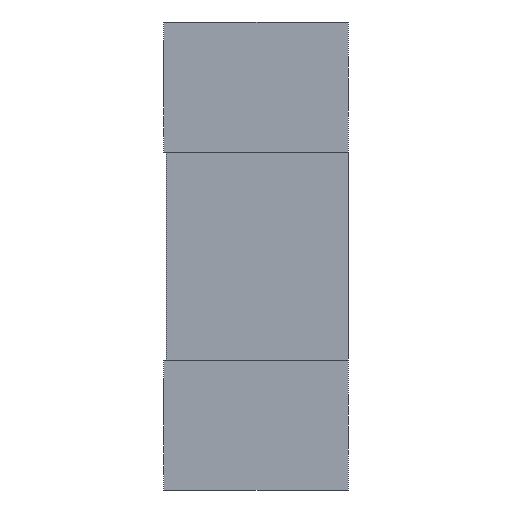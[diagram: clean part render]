
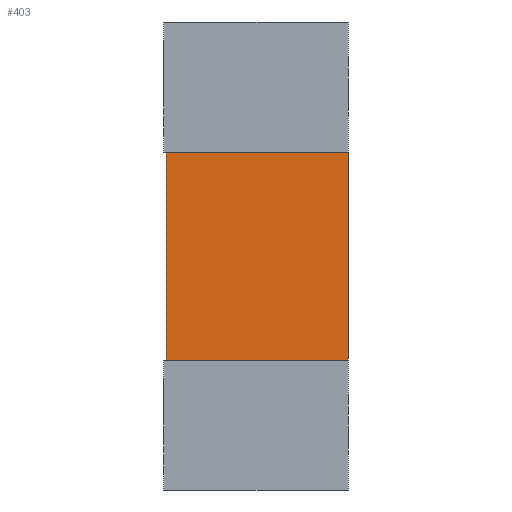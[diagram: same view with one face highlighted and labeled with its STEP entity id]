
A CAD part, left-side view. The second image highlights one B-rep face of the part: STEP entity #403.
In plain terms, the highlighted planar face has unit normal (-1, 0, 0).
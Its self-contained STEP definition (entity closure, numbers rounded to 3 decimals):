
#62=ORIENTED_EDGE('',*,*,#154,.T.);
#63=ORIENTED_EDGE('',*,*,#155,.F.);
#64=ORIENTED_EDGE('',*,*,#156,.F.);
#65=ORIENTED_EDGE('',*,*,#151,.T.);
#151=EDGE_CURVE('',#198,#197,#233,.T.);
#154=EDGE_CURVE('',#197,#200,#236,.T.);
#155=EDGE_CURVE('',#201,#200,#237,.T.);
#156=EDGE_CURVE('',#198,#201,#238,.T.);
#197=VERTEX_POINT('',#626);
#198=VERTEX_POINT('',#628);
#200=VERTEX_POINT('',#634);
#201=VERTEX_POINT('',#636);
#233=LINE('',#627,#263);
#236=LINE('',#633,#266);
#237=LINE('',#635,#267);
#238=LINE('',#637,#268);
#263=VECTOR('',#505,1000.);
#266=VECTOR('',#510,1000.);
#267=VECTOR('',#511,1000.);
#268=VECTOR('',#512,1000.);
#293=EDGE_LOOP('',(#62,#63,#64,#65));
#339=FACE_BOUND('',#293,.T.);
#385=PLANE('',#456);
#403=ADVANCED_FACE('',(#339),#385,.F.);
#456=AXIS2_PLACEMENT_3D('',#632,#508,#509);
#505=DIRECTION('',(0.,-1.,0.));
#508=DIRECTION('',(1.,0.,0.));
#509=DIRECTION('',(0.,0.,-1.));
#510=DIRECTION('',(0.,0.,1.));
#511=DIRECTION('',(0.,-1.,0.));
#512=DIRECTION('',(0.,0.,1.));
#626=CARTESIAN_POINT('',(0.,0.,-8.));
#627=CARTESIAN_POINT('',(0.,14.,-8.));
#628=CARTESIAN_POINT('',(0.,14.,-8.));
#632=CARTESIAN_POINT('',(0.,14.,-8.));
#633=CARTESIAN_POINT('',(0.,0.,-8.));
#634=CARTESIAN_POINT('',(0.,0.,8.));
#635=CARTESIAN_POINT('',(0.,14.,8.));
#636=CARTESIAN_POINT('',(0.,14.,8.));
#637=CARTESIAN_POINT('',(0.,14.,-8.));
